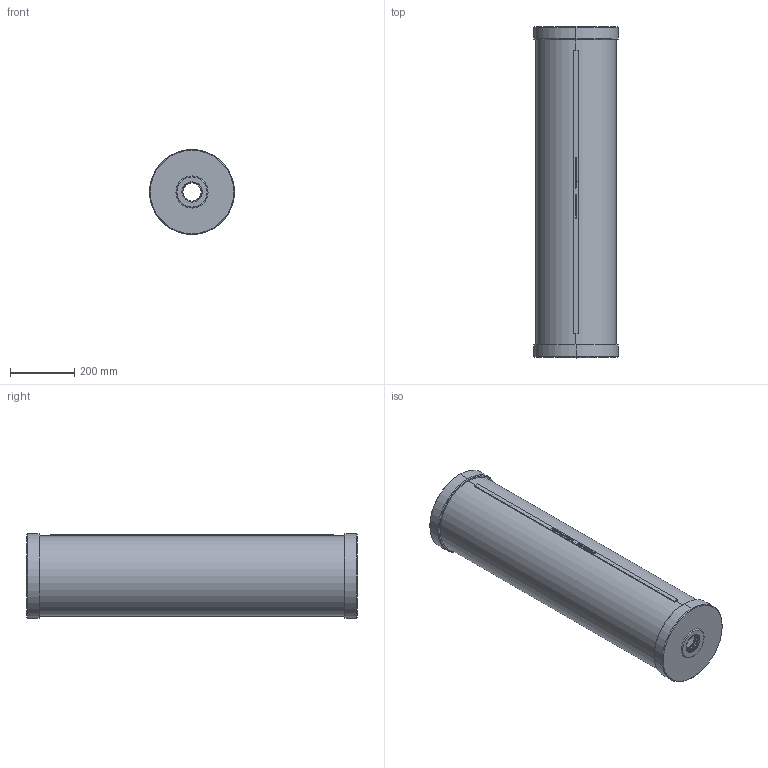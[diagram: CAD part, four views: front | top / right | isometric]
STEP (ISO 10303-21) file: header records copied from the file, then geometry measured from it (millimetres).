
FILE_DESCRIPTION (( 'STEP AP214' ), '1' );
FILE_NAME ('40.0LTR-C-11-00.STEP', '2025-06-24T09:04:07', ( '' ), ( '' ), 'SwSTEP 2.0', 'SolidWorks 2024', '' );
FILE_SCHEMA (( 'AUTOMOTIVE_DESIGN' ));
Length unit declared in the file: millimetre
Products named in the file (1): 40.0LTR-C-11-00
Bounding box: 265 x 1035 x 265 mm (x, y, z)
Volume: 6292313.1 mm3; surface area: 1873106.9 mm2
Topology: 4 solids, 4 shells, 575 faces, 1510 edges, 1004 vertices
Faces by surface type: plane 302, bspline 229, cylinder 32, cone 8, torus 4
Entity records: 39155 total; most frequent: CARTESIAN_POINT 20231, ORIENTED_EDGE 3020, DIRECTION 1750, EDGE_CURVE 1510, VERTEX_POINT 1004, VECTOR 960, LINE 960, EDGE_LOOP 642
